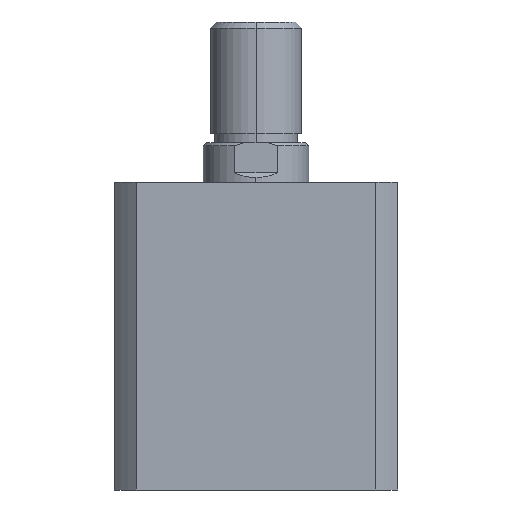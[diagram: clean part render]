
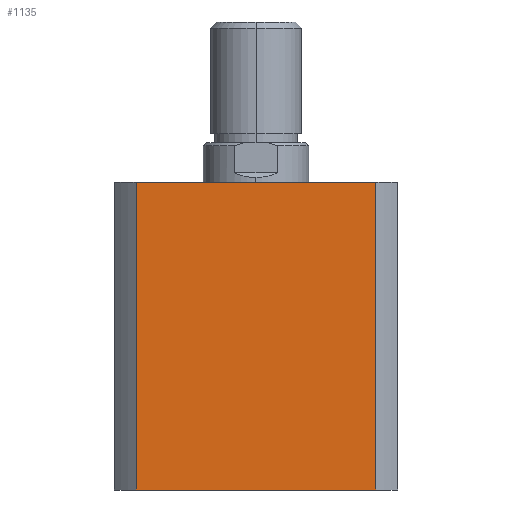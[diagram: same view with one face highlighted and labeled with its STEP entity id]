
A CAD part, left-side view. The second image highlights one B-rep face of the part: STEP entity #1135.
In plain terms, the highlighted planar face has unit normal (-1, 0, 0).
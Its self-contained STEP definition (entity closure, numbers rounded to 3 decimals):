
#31 = EDGE_CURVE ( 'NONE', #4052, #4073, #2614, .T. ) ;
#32 = EDGE_CURVE ( 'NONE', #4073, #4074, #2612, .T. ) ;
#33 = EDGE_CURVE ( 'NONE', #4053, #4074, #2617, .T. ) ;
#151 = AXIS2_PLACEMENT_3D ( 'NONE', #1520, #1528, #1529 ) ;
#659 = DIRECTION ( 'NONE',  ( 0., -1., 0. ) ) ;
#660 = CARTESIAN_POINT ( 'NONE',  ( -47., 0., 102. ) ) ;
#1135 = ADVANCED_FACE ( 'NONE', ( #2764 ), #1525, .F. ) ;
#1261 = CARTESIAN_POINT ( 'NONE',  ( -47., 0., 0. ) ) ;
#1266 = DIRECTION ( 'NONE',  ( 0., 0., -1. ) ) ;
#1267 = DIRECTION ( 'NONE',  ( 0., -1., 0. ) ) ;
#1268 = CARTESIAN_POINT ( 'NONE',  ( -47., -39.664, 102. ) ) ;
#1270 = DIRECTION ( 'NONE',  ( 0., 0., -1. ) ) ;
#1520 = CARTESIAN_POINT ( 'NONE',  ( -47., 0., 102. ) ) ;
#1525 = PLANE ( 'NONE',  #151 ) ;
#1528 = DIRECTION ( 'NONE',  ( 1., 0., 0. ) ) ;
#1529 = DIRECTION ( 'NONE',  ( 0., 0., -1. ) ) ;
#2109 = LINE ( 'NONE', #660, #2111 ) ;
#2111 = VECTOR ( 'NONE', #659, 1000. ) ;
#2612 = LINE ( 'NONE', #1261, #2618 ) ;
#2614 = LINE ( 'NONE', #3660, #2616 ) ;
#2616 = VECTOR ( 'NONE', #1266, 1000. ) ;
#2617 = LINE ( 'NONE', #1268, #2620 ) ;
#2618 = VECTOR ( 'NONE', #1267, 1000. ) ;
#2620 = VECTOR ( 'NONE', #1270, 1000. ) ;
#2764 = FACE_OUTER_BOUND ( 'NONE', #3412, .T. ) ;
#3412 = EDGE_LOOP ( 'NONE', ( #3817, #3818, #3819, #3820 ) ) ;
#3660 = CARTESIAN_POINT ( 'NONE',  ( -47., 39.664, 102. ) ) ;
#3817 = ORIENTED_EDGE ( 'NONE', *, *, #32, .T. ) ;
#3818 = ORIENTED_EDGE ( 'NONE', *, *, #33, .F. ) ;
#3819 = ORIENTED_EDGE ( 'NONE', *, *, #5013, .F. ) ;
#3820 = ORIENTED_EDGE ( 'NONE', *, *, #31, .T. ) ;
#4052 = VERTEX_POINT ( 'NONE', #4573 ) ;
#4053 = VERTEX_POINT ( 'NONE', #4574 ) ;
#4073 = VERTEX_POINT ( 'NONE', #4594 ) ;
#4074 = VERTEX_POINT ( 'NONE', #4595 ) ;
#4573 = CARTESIAN_POINT ( 'NONE',  ( -47., 39.664, 102. ) ) ;
#4574 = CARTESIAN_POINT ( 'NONE',  ( -47., -39.664, 102. ) ) ;
#4594 = CARTESIAN_POINT ( 'NONE',  ( -47., 39.664, 0. ) ) ;
#4595 = CARTESIAN_POINT ( 'NONE',  ( -47., -39.664, 0. ) ) ;
#5013 = EDGE_CURVE ( 'NONE', #4052, #4053, #2109, .T. ) ;
